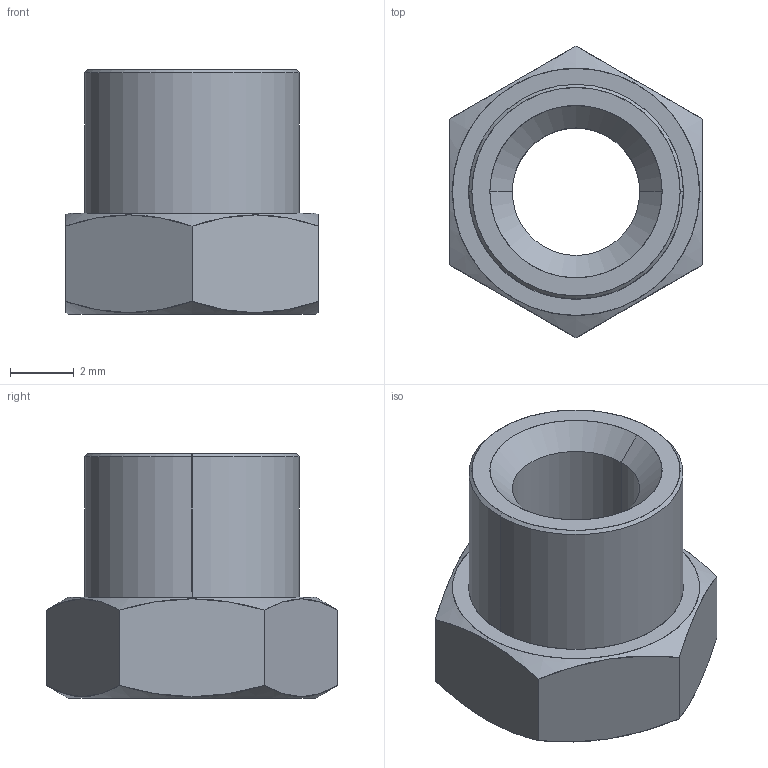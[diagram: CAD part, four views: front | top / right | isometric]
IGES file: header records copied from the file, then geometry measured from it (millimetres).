
Start section: SolidWorks IGES file using analytic representation for surfaces
Global section: file name: C:\Users\liam_\OneDrive\Desktop\Work\Mat Davis Pending 20181125\automotion\P SERIES\P0827.ZP_v2\P0827.ZP_v2_20181231_IGES\P0827.040-08G-ZP.igs; native system: SolidWorks 2017; preprocessor: SolidWorks 2017; author: liam_; date: 181231.110517; units: millimetre
Bounding box: 7.92 x 9.15 x 7.67 mm (x, y, z)
Surface area: 344.5 mm2 (no closed solid volume)
Topology: 0 solids, 0 shells, 23 faces, 376 edges, 376 vertices
Faces by surface type: revolution 14, bspline 9
